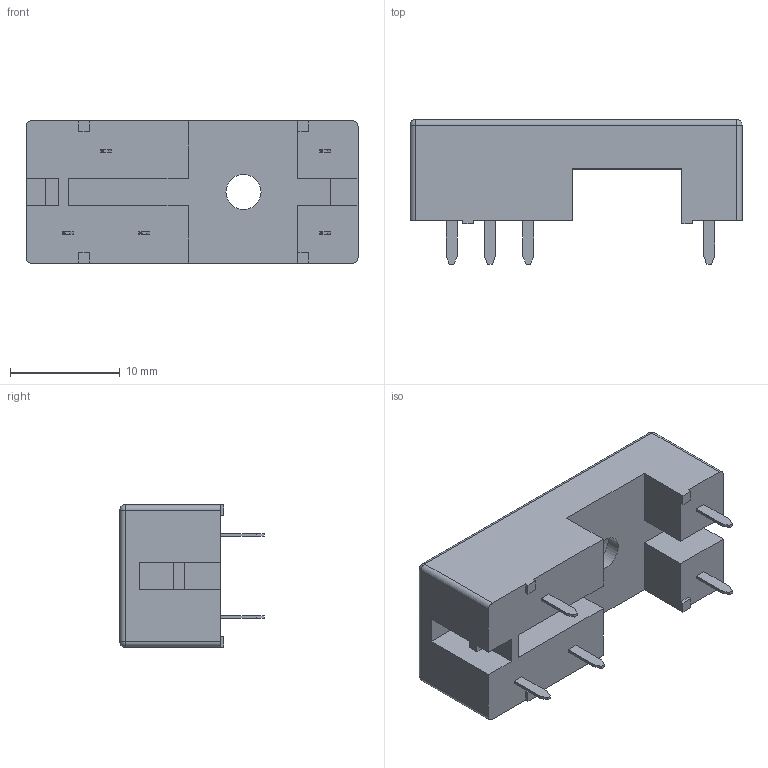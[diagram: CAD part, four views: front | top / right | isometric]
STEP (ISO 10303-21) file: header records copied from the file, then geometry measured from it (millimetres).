
FILE_DESCRIPTION(/* description */ (''),/* implementation_level */ '2;1');
FILE_NAME(/* name */ 'D:\Lavoro MARCO\Catalogo Finder\95.13.2\95.13.2.stp',/* time_stamp */ '2021-04-13T12:28:13+02:00',/* author */ ('marco'),/* organization */ (''),/* preprocessor_version */ 'ST-DEVELOPER v17',/* originating_system */ 'Autodesk Inventor 2019',/* authorisation */ '');
FILE_SCHEMA (('AUTOMOTIVE_DESIGN { 1 0 10303 214 3 1 1 }'));
Length unit declared in the file: millimetre
Products named in the file (1): 95.13.2
Bounding box: 30.3 x 13.2 x 13 mm (x, y, z)
Volume: 2617.6 mm3; surface area: 2094.7 mm2
Topology: 1 solids, 1 shells, 132 faces, 348 edges, 226 vertices
Faces by surface type: plane 118, cylinder 10, sphere 4
Full cylindrical faces by diameter (mm): 3.2 x1, 5.6 x1
Entity records: 4055 total; most frequent: CARTESIAN_POINT 703, ORIENTED_EDGE 688, DIRECTION 632, EDGE_CURVE 344, LINE 322, VECTOR 322, VERTEX_POINT 226, AXIS2_PLACEMENT_3D 155
